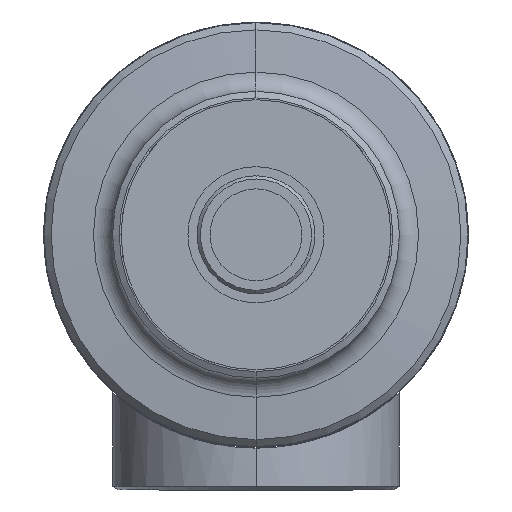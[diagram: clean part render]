
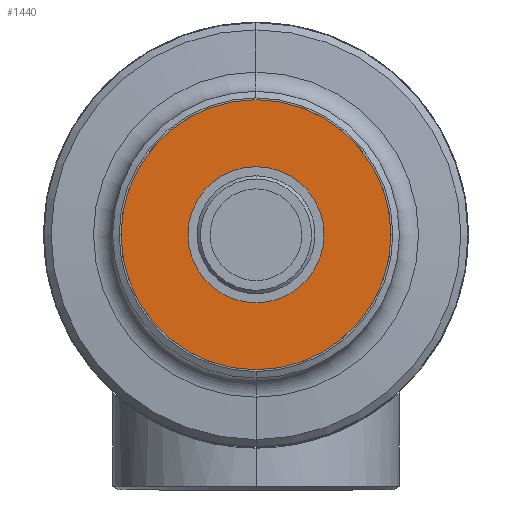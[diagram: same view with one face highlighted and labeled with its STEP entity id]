
A CAD part, front view. The second image highlights one B-rep face of the part: STEP entity #1440.
In plain terms, the highlighted planar face has unit normal (0, -1, 0).
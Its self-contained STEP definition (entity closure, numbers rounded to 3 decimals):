
#150 = EDGE_CURVE ( 'NONE', #16685, #17788, #6791, .T. ) ;
#16685 = VERTEX_POINT ( 'NONE', #19965 ) ;
#523 = ORIENTED_EDGE ( 'NONE', *, *, #150, .F. ) ;
#16900 = EDGE_CURVE ( 'NONE', #17788, #16685, #20149, .T. ) ;
#16921 = EDGE_CURVE ( 'NONE', #3979, #4201, #20175, .T. ) ;
#1207 = EDGE_LOOP ( 'NONE', ( #523, #23135 ) ) ;
#17788 = VERTEX_POINT ( 'NONE', #20787 ) ;
#1440 = ADVANCED_FACE ( 'NONE', ( #11539, #11540 ), #11574, .T. ) ;
#19965 = CARTESIAN_POINT ( 'NONE',  ( 0., -48., -52. ) ) ;
#20149 = CIRCLE ( 'NONE', #20150, 52. ) ;
#20150 = AXIS2_PLACEMENT_3D ( 'NONE', #20151, #20152, #20153 ) ;
#20151 = CARTESIAN_POINT ( 'NONE',  ( 0., -48., 0. ) ) ;
#20152 = DIRECTION ( 'NONE',  ( 0., -1., 0. ) ) ;
#20153 = DIRECTION ( 'NONE',  ( 0., 0., -1. ) ) ;
#20175 = CIRCLE ( 'NONE', #20176, 120. ) ;
#20176 = AXIS2_PLACEMENT_3D ( 'NONE', #20177, #20178, #20179 ) ;
#20177 = CARTESIAN_POINT ( 'NONE',  ( 0., -48., 0. ) ) ;
#20178 = DIRECTION ( 'NONE',  ( 0., -1., 0. ) ) ;
#20179 = DIRECTION ( 'NONE',  ( 0., 0., -1. ) ) ;
#3979 = VERTEX_POINT ( 'NONE', #22273 ) ;
#4201 = VERTEX_POINT ( 'NONE', #22420 ) ;
#20787 = CARTESIAN_POINT ( 'NONE',  ( 0., -48., 52. ) ) ;
#4418 = EDGE_CURVE ( 'NONE', #4201, #3979, #22936, .T. ) ;
#21864 = ORIENTED_EDGE ( 'NONE', *, *, #4418, .T. ) ;
#22273 = CARTESIAN_POINT ( 'NONE',  ( 0., -48., 120. ) ) ;
#22378 = ORIENTED_EDGE ( 'NONE', *, *, #16921, .T. ) ;
#22420 = CARTESIAN_POINT ( 'NONE',  ( 0., -48., -120. ) ) ;
#22894 = EDGE_LOOP ( 'NONE', ( #22378, #21864 ) ) ;
#22936 = CIRCLE ( 'NONE', #22937, 120. ) ;
#22937 = AXIS2_PLACEMENT_3D ( 'NONE', #22938, #22939, #22940 ) ;
#22938 = CARTESIAN_POINT ( 'NONE',  ( 0., -48., 0. ) ) ;
#22939 = DIRECTION ( 'NONE',  ( 0., -1., 0. ) ) ;
#22940 = DIRECTION ( 'NONE',  ( 0., 0., -1. ) ) ;
#23135 = ORIENTED_EDGE ( 'NONE', *, *, #16900, .F. ) ;
#6791 = CIRCLE ( 'NONE', #6792, 52. ) ;
#6792 = AXIS2_PLACEMENT_3D ( 'NONE', #6793, #6794, #6795 ) ;
#6793 = CARTESIAN_POINT ( 'NONE',  ( 0., -48., 0. ) ) ;
#6794 = DIRECTION ( 'NONE',  ( 0., -1., 0. ) ) ;
#6795 = DIRECTION ( 'NONE',  ( 0., 0., -1. ) ) ;
#11539 = FACE_BOUND ( 'NONE', #1207, .T. ) ;
#11540 = FACE_OUTER_BOUND ( 'NONE', #22894, .T. ) ;
#11574 = PLANE ( 'NONE',  #11575 ) ;
#11575 = AXIS2_PLACEMENT_3D ( 'NONE', #11576, #11596, #11597 ) ;
#11576 = CARTESIAN_POINT ( 'NONE',  ( 0., -48., 0. ) ) ;
#11596 = DIRECTION ( 'NONE',  ( 0., -1., 0. ) ) ;
#11597 = DIRECTION ( 'NONE',  ( 0., 0., -1. ) ) ;
